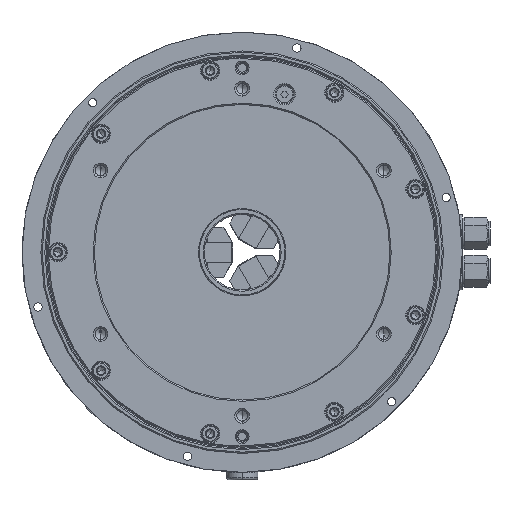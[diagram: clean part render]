
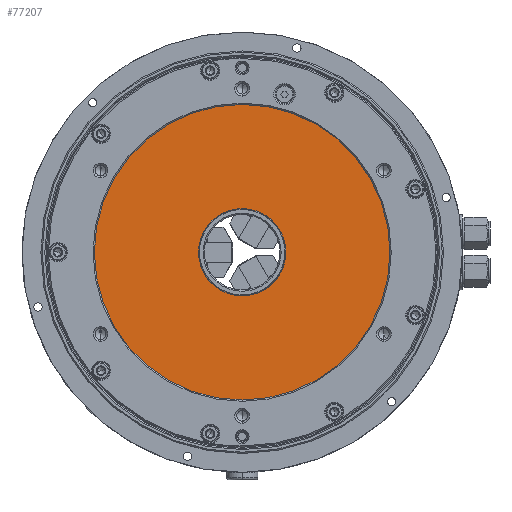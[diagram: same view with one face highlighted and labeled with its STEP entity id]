
A CAD part, left-side view. The second image highlights one B-rep face of the part: STEP entity #77207.
In plain terms, the highlighted planar face has unit normal (-1, 0, 0).
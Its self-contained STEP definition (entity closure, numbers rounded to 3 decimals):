
#7425 = CARTESIAN_POINT ( 'NONE',  ( -6., 0., 117.5 ) ) ;
#14584 = CARTESIAN_POINT ( 'NONE',  ( -6., 0., 34.7 ) ) ;
#14905 = CARTESIAN_POINT ( 'NONE',  ( -6., 0., -34.7 ) ) ;
#17022 = CARTESIAN_POINT ( 'NONE',  ( -6., 0., 0. ) ) ;
#17523 = PLANE ( 'NONE',  #115634 ) ;
#17801 = AXIS2_PLACEMENT_3D ( 'NONE', #54249, #79675, #102923 ) ;
#18558 = DIRECTION ( 'NONE',  ( -1., 0., 0. ) ) ;
#23633 = CARTESIAN_POINT ( 'NONE',  ( -6., 0., 0. ) ) ;
#30672 = DIRECTION ( 'NONE',  ( 1., 0., 0. ) ) ;
#33797 = CARTESIAN_POINT ( 'NONE',  ( -6., 0., 0. ) ) ;
#45369 = EDGE_CURVE ( 'NONE', #117978, #128006, #53935, .T. ) ;
#53466 = CIRCLE ( 'NONE', #147298, 117.5 ) ;
#53876 = FACE_OUTER_BOUND ( 'NONE', #147110, .T. ) ;
#53935 = CIRCLE ( 'NONE', #78494, 34.7 ) ;
#54249 = CARTESIAN_POINT ( 'NONE',  ( -6., 0., 0. ) ) ;
#59102 = ORIENTED_EDGE ( 'NONE', *, *, #144599, .T. ) ;
#69234 = ORIENTED_EDGE ( 'NONE', *, *, #112802, .T. ) ;
#69666 = CIRCLE ( 'NONE', #17801, 117.5 ) ;
#74695 = EDGE_CURVE ( 'NONE', #128006, #117978, #132362, .T. ) ;
#77207 = ADVANCED_FACE ( 'NONE', ( #123460, #53876 ), #17523, .F. ) ;
#78494 = AXIS2_PLACEMENT_3D ( 'NONE', #23633, #119489, #110945 ) ;
#79398 = DIRECTION ( 'NONE',  ( 0., 0., 1. ) ) ;
#79675 = DIRECTION ( 'NONE',  ( -1., 0., 0. ) ) ;
#93945 = ORIENTED_EDGE ( 'NONE', *, *, #74695, .F. ) ;
#94448 = VERTEX_POINT ( 'NONE', #144798 ) ;
#102923 = DIRECTION ( 'NONE',  ( 0., 0., 1. ) ) ;
#104171 = DIRECTION ( 'NONE',  ( -1., 0., 0. ) ) ;
#110074 = ORIENTED_EDGE ( 'NONE', *, *, #45369, .F. ) ;
#110945 = DIRECTION ( 'NONE',  ( 0., 0., 1. ) ) ;
#112666 = AXIS2_PLACEMENT_3D ( 'NONE', #17022, #18558, #146953 ) ;
#112802 = EDGE_CURVE ( 'NONE', #143937, #94448, #53466, .T. ) ;
#115634 = AXIS2_PLACEMENT_3D ( 'NONE', #136587, #30672, #124992 ) ;
#117978 = VERTEX_POINT ( 'NONE', #14584 ) ;
#119489 = DIRECTION ( 'NONE',  ( -1., 0., 0. ) ) ;
#123460 = FACE_BOUND ( 'NONE', #137436, .T. ) ;
#124992 = DIRECTION ( 'NONE',  ( 0., 0., -1. ) ) ;
#128006 = VERTEX_POINT ( 'NONE', #14905 ) ;
#132362 = CIRCLE ( 'NONE', #112666, 34.7 ) ;
#136587 = CARTESIAN_POINT ( 'NONE',  ( -6., 34.7, 0. ) ) ;
#137436 = EDGE_LOOP ( 'NONE', ( #110074, #93945 ) ) ;
#143937 = VERTEX_POINT ( 'NONE', #7425 ) ;
#144599 = EDGE_CURVE ( 'NONE', #94448, #143937, #69666, .T. ) ;
#144798 = CARTESIAN_POINT ( 'NONE',  ( -6., 0., -117.5 ) ) ;
#146953 = DIRECTION ( 'NONE',  ( 0., 0., 1. ) ) ;
#147110 = EDGE_LOOP ( 'NONE', ( #69234, #59102 ) ) ;
#147298 = AXIS2_PLACEMENT_3D ( 'NONE', #33797, #104171, #79398 ) ;
